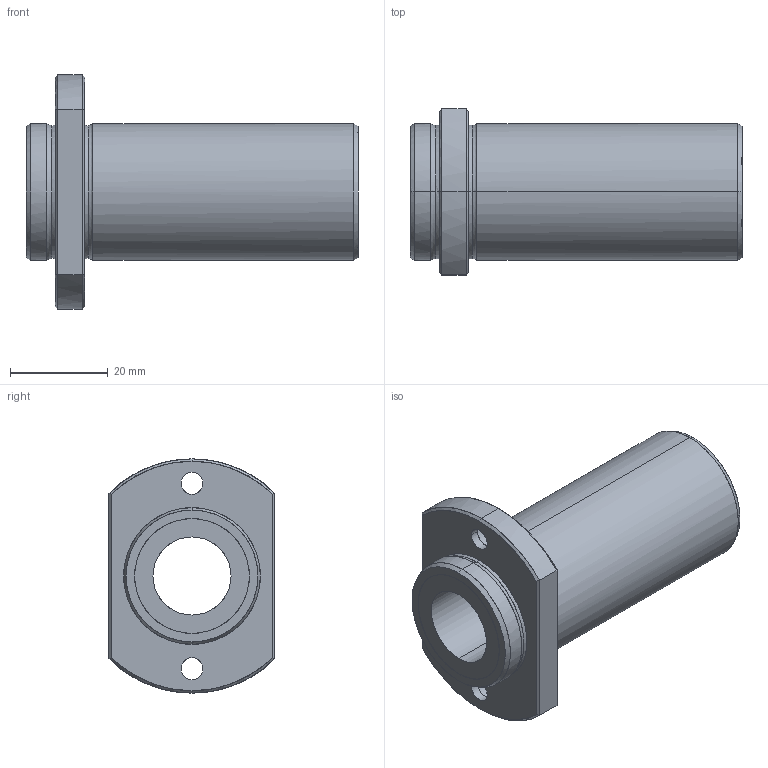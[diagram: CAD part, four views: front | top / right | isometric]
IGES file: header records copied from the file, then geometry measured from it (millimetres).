
Global section: file name: No Iges File Name specified; native system: AutoDesk Inventor R10; preprocessor: AutoDesk Inventor Iges Exporter R10; author: No Author specified; organization: No Organization specified; date: 20101209.173935; units: millimetre
Bounding box: 68 x 34 x 48 mm (x, y, z)
Surface area: 12403.5 mm2 (no closed solid volume)
Topology: 0 solids, 0 shells, 56 faces, 336 edges, 336 vertices
Faces by surface type: bspline 56
